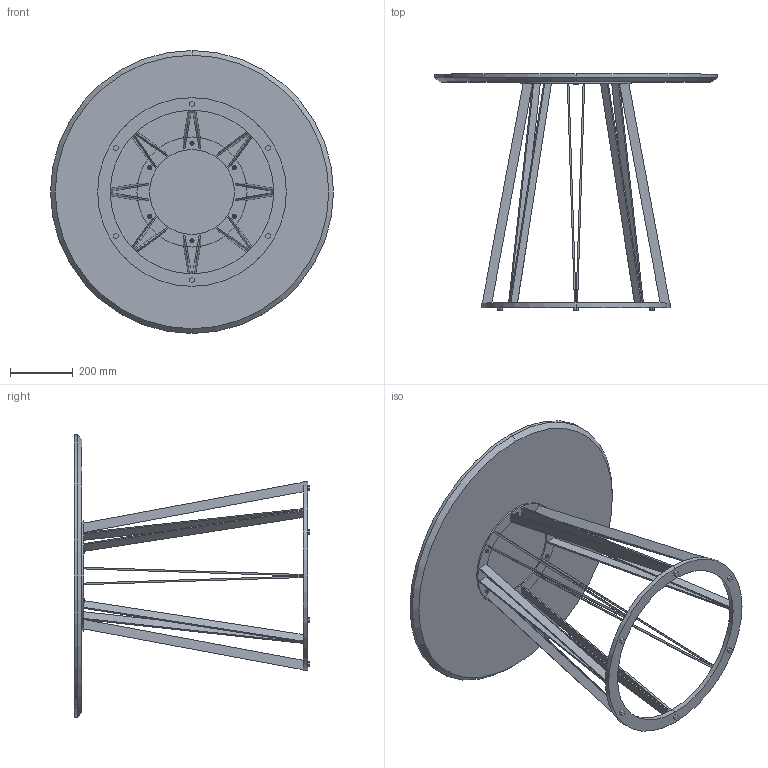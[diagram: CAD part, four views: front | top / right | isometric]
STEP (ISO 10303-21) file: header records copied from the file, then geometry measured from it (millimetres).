
FILE_DESCRIPTION (( 'STEP AP214' ), '1' );
FILE_NAME ('Ghoomar Table - D900xH750.STEP', '2024-04-04T12:29:21', ( '' ), ( '' ), 'SwSTEP 2.0', 'SolidWorks 2023', '' );
FILE_SCHEMA (( 'AUTOMOTIVE_DESIGN' ));
Length unit declared in the file: millimetre
Products named in the file (7): Ghoomar Table - D900xH750; M6x16MM Flate head allen Bolt; Wooden Top; Wood insert nut_M6; M6x20MM Hex Leveller; Metal Frame; Bush
Assembly tree (26 placements, depth 2):
  Ghoomar Table - D900xH750
    Metal Frame
    Wooden Top
    M6x16MM Flate head allen Bolt  x6
    M6x20MM Hex Leveller  x6
    Wood insert nut_M6  x6
    Bush  x6
Bounding box: 900 x 750 x 900 mm (x, y, z)
Volume: 18526511.1 mm3; surface area: 2411936.2 mm2
Topology: 43 solids, 43 shells, 1134 faces, 2896 edges, 1878 vertices
Faces by surface type: cylinder 610, plane 354, torus 78, bspline 66, cone 26
Entity records: 16768 total; most frequent: CARTESIAN_POINT 9334, ORIENTED_EDGE 1522, DIRECTION 1327, EDGE_CURVE 761, VERTEX_POINT 498, AXIS2_PLACEMENT_3D 491, EDGE_LOOP 359, LINE 345
